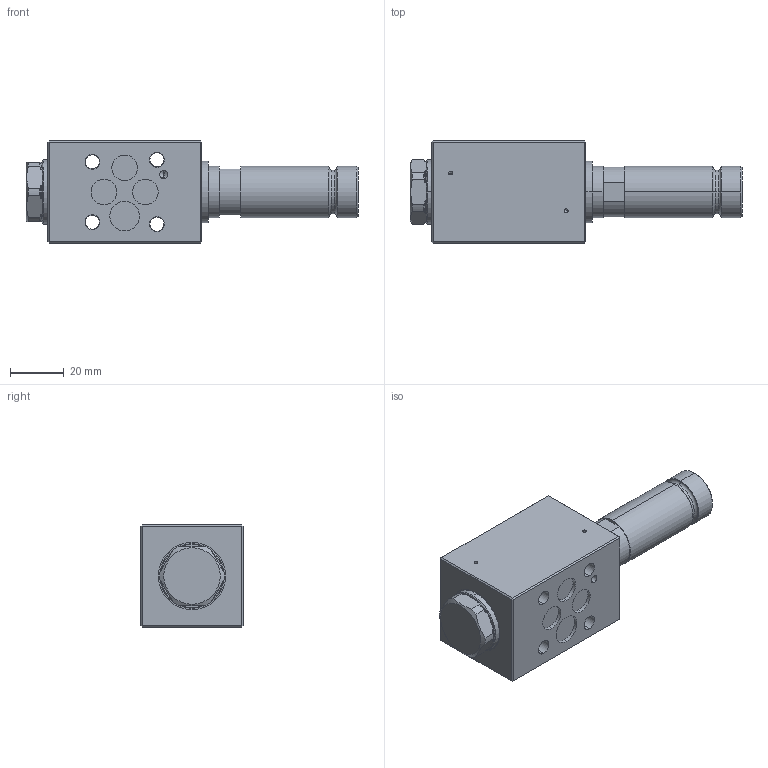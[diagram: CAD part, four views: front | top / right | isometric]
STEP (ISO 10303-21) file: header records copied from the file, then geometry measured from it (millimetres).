
FILE_DESCRIPTION (( 'STEP AP203' ), '1' );
FILE_NAME ('WDEFB04-4_2-Bside.step', '2013-07-08T06:41:02', ( 'Wandfluh AG' ), ( 'Wandfluh AG' ), 'SwSTEP 2.0', 'SolidWorks 2012', '' );
FILE_SCHEMA (( 'CONFIG_CONTROL_DESIGN' ));
Length unit declared in the file: millimetre
Products named in the file (1): WDEFB04-4_2-Bside
Bounding box: 123.5 x 38 x 38 mm (x, y, z)
Volume: 95852.7 mm3; surface area: 26285.8 mm2
Topology: 8 solids, 8 shells, 1091 faces, 3027 edges, 1984 vertices
Faces by surface type: plane 702, cylinder 292, cone 46, torus 32, bspline 19
Entity records: 36178 total; most frequent: CARTESIAN_POINT 7410, DIRECTION 6139, ORIENTED_EDGE 6038, EDGE_CURVE 3019, AXIS2_PLACEMENT_3D 2137, VERTEX_POINT 1984, VECTOR 1865, LINE 1865
